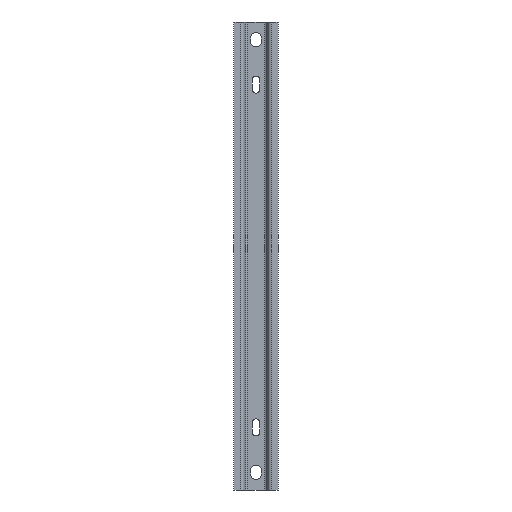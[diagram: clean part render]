
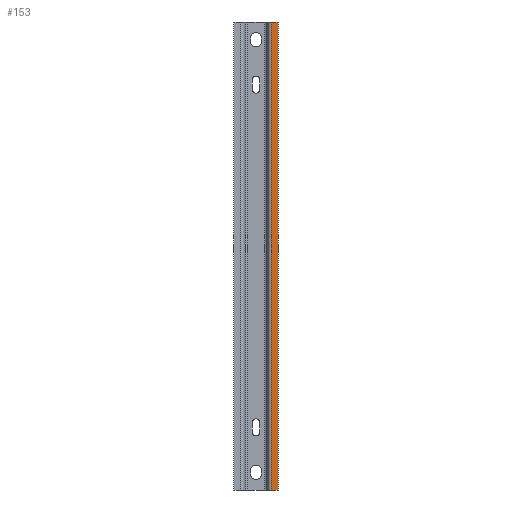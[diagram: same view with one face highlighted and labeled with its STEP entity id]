
A CAD part, front view. The second image highlights one B-rep face of the part: STEP entity #153.
In plain terms, the highlighted planar face has unit normal (0, -1, 0).
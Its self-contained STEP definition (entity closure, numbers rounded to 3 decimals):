
#9 = DIRECTION ( 'NONE',  ( 1., 0., 0. ) ) ;
#48 = CARTESIAN_POINT ( 'NONE',  ( 16., -11., 550. ) ) ;
#82 = LINE ( 'NONE', #1044, #760 ) ;
#92 = ORIENTED_EDGE ( 'NONE', *, *, #945, .F. ) ;
#113 = LINE ( 'NONE', #577, #1084 ) ;
#153 = ADVANCED_FACE ( 'NONE', ( #578 ), #1066, .F. ) ;
#315 = EDGE_CURVE ( 'NONE', #513, #726, #409, .T. ) ;
#382 = ORIENTED_EDGE ( 'NONE', *, *, #315, .T. ) ;
#409 = LINE ( 'NONE', #901, #914 ) ;
#415 = CARTESIAN_POINT ( 'NONE',  ( 18.114, -11., 550. ) ) ;
#513 = VERTEX_POINT ( 'NONE', #415 ) ;
#577 = CARTESIAN_POINT ( 'NONE',  ( 16., -11., 0. ) ) ;
#578 = FACE_OUTER_BOUND ( 'NONE', #1279, .T. ) ;
#638 = VERTEX_POINT ( 'NONE', #811 ) ;
#658 = VECTOR ( 'NONE', #1391, 1000. ) ;
#726 = VERTEX_POINT ( 'NONE', #1567 ) ;
#760 = VECTOR ( 'NONE', #922, 1000. ) ;
#778 = LINE ( 'NONE', #998, #658 ) ;
#811 = CARTESIAN_POINT ( 'NONE',  ( 26., -11., 550. ) ) ;
#830 = AXIS2_PLACEMENT_3D ( 'NONE', #48, #1277, #911 ) ;
#901 = CARTESIAN_POINT ( 'NONE',  ( 18.114, -11., 550. ) ) ;
#911 = DIRECTION ( 'NONE',  ( -1., 0., 0. ) ) ;
#914 = VECTOR ( 'NONE', #1383, 1000. ) ;
#922 = DIRECTION ( 'NONE',  ( 0., 0., -1. ) ) ;
#945 = EDGE_CURVE ( 'NONE', #513, #638, #778, .T. ) ;
#998 = CARTESIAN_POINT ( 'NONE',  ( 16., -11., 550. ) ) ;
#1044 = CARTESIAN_POINT ( 'NONE',  ( 26., -11., 550. ) ) ;
#1066 = PLANE ( 'NONE',  #830 ) ;
#1084 = VECTOR ( 'NONE', #9, 1000. ) ;
#1203 = ORIENTED_EDGE ( 'NONE', *, *, #1544, .T. ) ;
#1277 = DIRECTION ( 'NONE',  ( 0., 1., 0. ) ) ;
#1279 = EDGE_LOOP ( 'NONE', ( #1203, #1320, #92, #382 ) ) ;
#1320 = ORIENTED_EDGE ( 'NONE', *, *, #1404, .F. ) ;
#1383 = DIRECTION ( 'NONE',  ( 0., 0., -1. ) ) ;
#1391 = DIRECTION ( 'NONE',  ( 1., 0., 0. ) ) ;
#1404 = EDGE_CURVE ( 'NONE', #638, #1547, #82, .T. ) ;
#1470 = CARTESIAN_POINT ( 'NONE',  ( 26., -11., 0. ) ) ;
#1544 = EDGE_CURVE ( 'NONE', #726, #1547, #113, .T. ) ;
#1547 = VERTEX_POINT ( 'NONE', #1470 ) ;
#1567 = CARTESIAN_POINT ( 'NONE',  ( 18.114, -11., 0. ) ) ;
